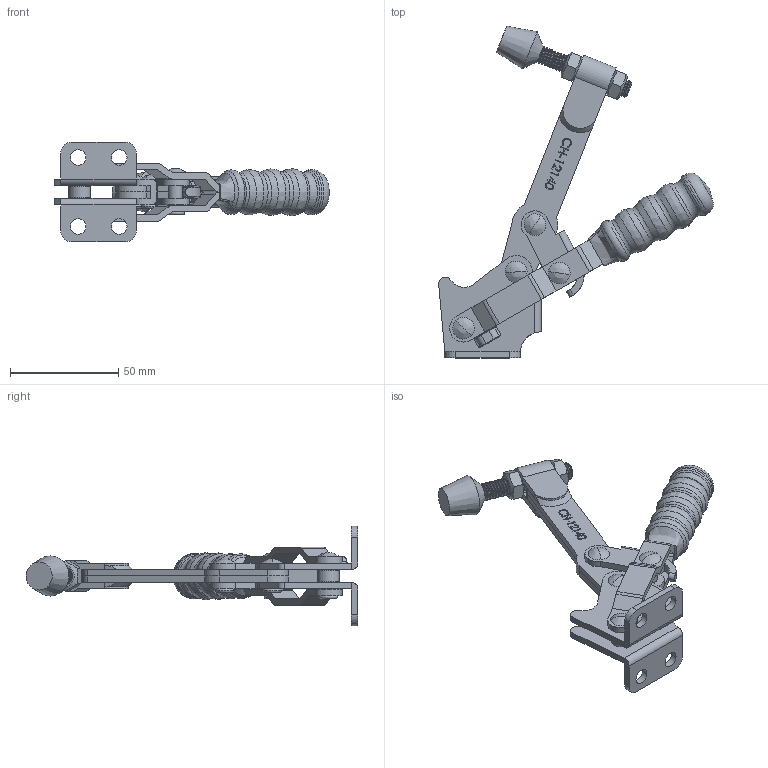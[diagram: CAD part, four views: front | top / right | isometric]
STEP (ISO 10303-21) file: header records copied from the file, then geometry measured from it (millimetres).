
FILE_DESCRIPTION(/* description */ ('STEP AP203'),/* implementation_level */ '2;1');
FILE_NAME(/* name */ 'D:\Vault_2016\Projekty\NASZ KATALOG\CLAMPTEK\STRONA\Vertical toggle clamp\CH-12140\CH-12140_OTWARTE.stp',/* time_stamp */ '2019-01-18T12:27:40+01:00',/* author */ ('CADENGINEERING4'),/* organization */ ('Î¢ÈíÖÐ¹ú'),/* preprocessor_version */ 'ST-DEVELOPER v17.2',/* originating_system */ 'Autodesk Inventor 2019',/* authorisation */ '');
FILE_SCHEMA (('AUTOMOTIVE_DESIGN { 1 0 10303 214 3 1 1 }'));
Products named in the file (11): CH-12140_OTWARTE; CH-12130-01 FLANGED BASE; CH-FC-56212 SPINDLE SUPPLIED; CH-12130-04 CONNECTING-PLATE; CH-12130-06; CH-12130-08; CH-12130-03 STRAIGHT HANDLE; CH-12130-07; CH-12140-02 SHORT SOLID BAR_Ä¬ÈÏ_°
´¼Ó¹¤_; CH-FC-56212 Nut; CH-12130-05
Assembly tree (13 placements, depth 2):
  CH-12140_OTWARTE
    CH-12130-01 FLANGED BASE
    CH-FC-56212 SPINDLE SUPPLIED
    CH-12130-06  x2
    CH-12130-08  x2
    CH-12130-04 CONNECTING-PLATE
    CH-12130-03 STRAIGHT HANDLE
    CH-12130-07
    CH-12140-02 SHORT SOLID BAR_Ä¬ÈÏ_°
´¼Ó¹¤_
    CH-FC-56212 Nut  x2
    CH-12130-05
Bounding box: 126.79 x 153.24 x 46 mm (x, y, z)
Volume: 60557.5 mm3; surface area: 45851.9 mm2
Topology: 19 solids, 19 shells, 686 faces, 1906 edges, 1282 vertices
Faces by surface type: plane 300, bspline 179, cylinder 150, cone 32, torus 25
Full cylindrical faces by diameter (mm): 1.55 x1, 1.744 x1, 3.9 x2, 6.3 x6, 6.4 x20, 6.8 x1, 7.2 x4, 7.92 x32, 8.4 x2, 10 x1, 20.847 x1
Entity records: 45755 total; most frequent: CARTESIAN_POINT 29707, ORIENTED_EDGE 3582, DIRECTION 2700, EDGE_CURVE 1791, VERTEX_POINT 1210, LINE 964, VECTOR 964, AXIS2_PLACEMENT_3D 868
